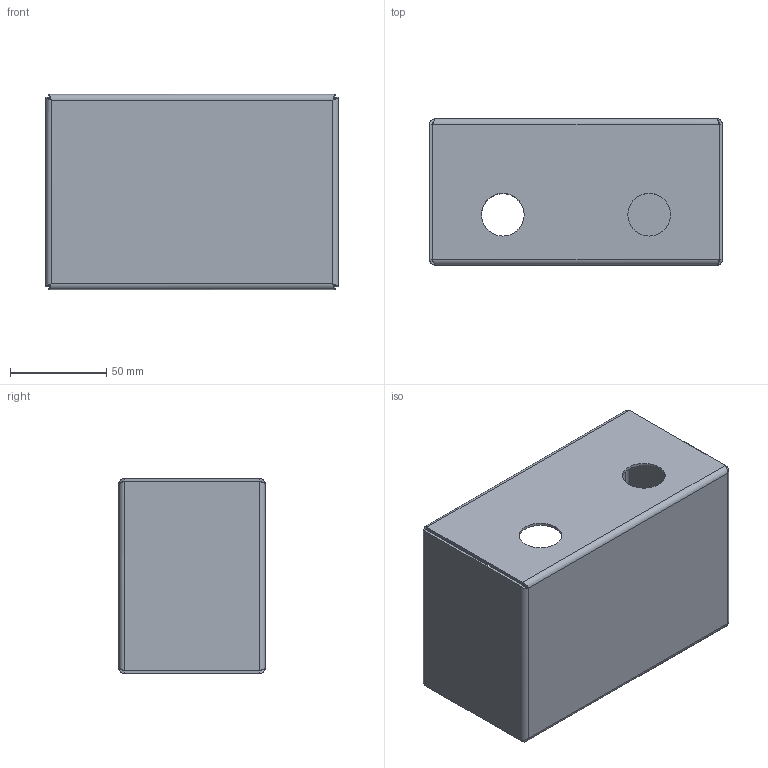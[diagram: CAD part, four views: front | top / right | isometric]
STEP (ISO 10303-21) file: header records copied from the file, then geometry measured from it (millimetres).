
FILE_DESCRIPTION (( 'STEP AP214' ), '1' );
FILE_NAME ('Body_ALJunction_6x4x3.STEP', '2016-11-10T16:37:59', ( '' ), ( '' ), 'SwSTEP 2.0', 'SolidWorks 2014', '' );
FILE_SCHEMA (( 'AUTOMOTIVE_DESIGN' ));
Length unit declared in the file: inch
Products named in the file (1): Body_ALJunction_6x4x3
Bounding box: 152.4 x 76.2 x 101.6 mm (x, y, z)
Volume: 75661.6 mm3; surface area: 110189.3 mm2
Topology: 1 solids, 1 shells, 76 faces, 158 edges, 84 vertices
Faces by surface type: plane 38, cylinder 22, bspline 16
Entity records: 2882 total; most frequent: CARTESIAN_POINT 1359, ORIENTED_EDGE 316, DIRECTION 260, EDGE_CURVE 158, VECTOR 114, LINE 114, VERTEX_POINT 84, EDGE_LOOP 82
